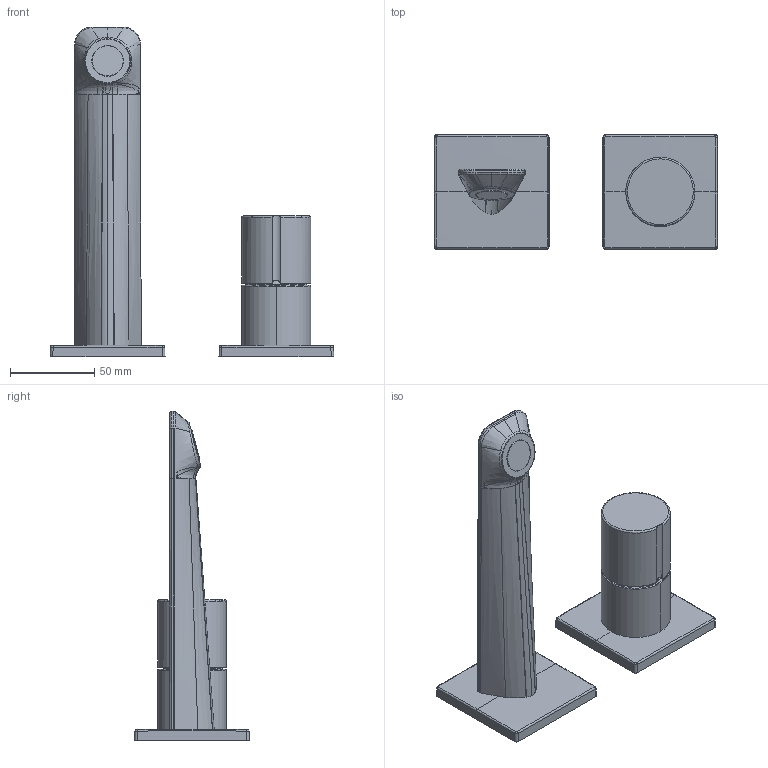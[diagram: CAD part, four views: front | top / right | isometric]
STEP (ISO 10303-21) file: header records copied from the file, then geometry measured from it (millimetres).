
FILE_DESCRIPTION((''),'2;1');
FILE_NAME('ORA_A175_SW0003','2021-10-19T12:34:29',('KS894'),(''),'CREO PARAMETRIC BY PTC INC, 2018500','CREO PARAMETRIC BY PTC INC, 2018500','');
FILE_SCHEMA(('CONFIG_CONTROL_DESIGN'));
Length unit declared in the file: millimetre
Products named in the file (1): ORA_A175_SW0003
Bounding box: 168 x 68 x 195.32 mm (x, y, z)
Volume: 258727.8 mm3; surface area: 55258.4 mm2
Topology: 4 solids, 4 shells, 211 faces, 483 edges, 283 vertices
Faces by surface type: bspline 140, cylinder 25, plane 25, torus 10, sphere 7, cone 4
Entity records: 13265 total; most frequent: CARTESIAN_POINT 9479, ORIENTED_EDGE 966, DIRECTION 495, EDGE_CURVE 483, VERTEX_POINT 283, B_SPLINE_CURVE_WITH_KNOTS 277, AXIS2_PLACEMENT_3D 218, EDGE_LOOP 214
